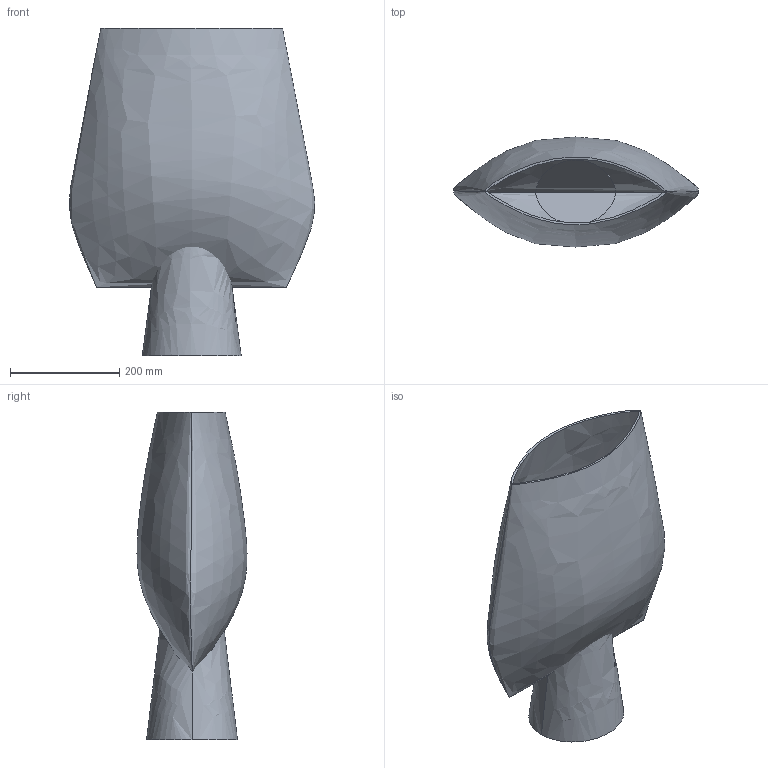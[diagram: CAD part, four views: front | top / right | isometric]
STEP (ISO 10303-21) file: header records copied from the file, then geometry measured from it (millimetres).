
FILE_DESCRIPTION(/* description */ (''),/* implementation_level */ '2;1');
FILE_NAME(/* name */ 'Sphere Vase Square Hexa',/* time_stamp */ '2020-07-07T10:56:55+02:00',/* author */ (''),/* organization */ (''),/* preprocessor_version */ 'ST-DEVELOPER v15',/* originating_system */ '',/* authorisation */ '');
FILE_SCHEMA (('AUTOMOTIVE_DESIGN'));
Length unit declared in the file: millimetre
Products named in the file (1): Document
Bounding box: 449.58 x 201.63 x 599.88 mm (x, y, z)
Volume: 2973348.5 mm3; surface area: 576507.5 mm2
Topology: 1 solids, 5 shells, 11 faces, 23 edges, 16 vertices
Faces by surface type: bspline 8, plane 3
Entity records: 4987 total; most frequent: CARTESIAN_POINT 4802, ORIENTED_EDGE 38, EDGE_CURVE 25, B_SPLINE_CURVE_WITH_KNOTS 22, VERTEX_POINT 17, ADVANCED_FACE 10, FACE_OUTER_BOUND 10, EDGE_LOOP 10
